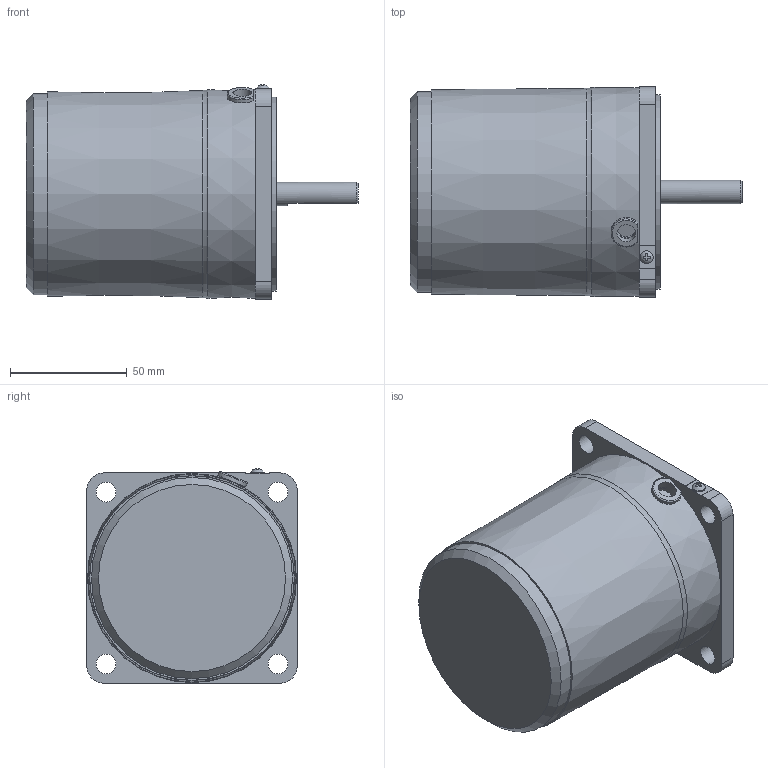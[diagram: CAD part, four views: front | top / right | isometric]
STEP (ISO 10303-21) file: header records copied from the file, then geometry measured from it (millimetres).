
FILE_DESCRIPTION(/* description */ (''),/* implementation_level */ '2;1');
FILE_NAME(/* name */ 'E:\도면작업\2016\0704) 미주향 SG 도면\3D MOTOR\SG8I40D_.stp',/* time_stamp */ '2016-07-22T13:47:54+09:00',/* author */ ('jy-jung'),/* organization */ (''),/* preprocessor_version */ 'ST-DEVELOPER v15.6',/* originating_system */ 'Autodesk Inventor 2015',/* authorisation */ '');
FILE_SCHEMA (('AUTOMOTIVE_DESIGN { 1 0 10303 214 3 1 1 }'));
Length unit declared in the file: millimetre
Products named in the file (1): 부품2
Bounding box: 142 x 90 x 91.76 mm (x, y, z)
Volume: 647685.3 mm3; surface area: 49487.7 mm2
Topology: 1 solids, 2 shells, 92 faces, 246 edges, 167 vertices
Faces by surface type: plane 58, cylinder 27, cone 4, torus 2, bspline 1
Full cylindrical faces by diameter (mm): 5.6 x1, 8 x1, 8.5 x4, 10 x2, 40 x1, 83 x1, 86 x1
Entity records: 2991 total; most frequent: CARTESIAN_POINT 622, DIRECTION 458, ORIENTED_EDGE 442, EDGE_CURVE 221, AXIS2_PLACEMENT_3D 166, VERTEX_POINT 158, EDGE_LOOP 127, LINE 126
